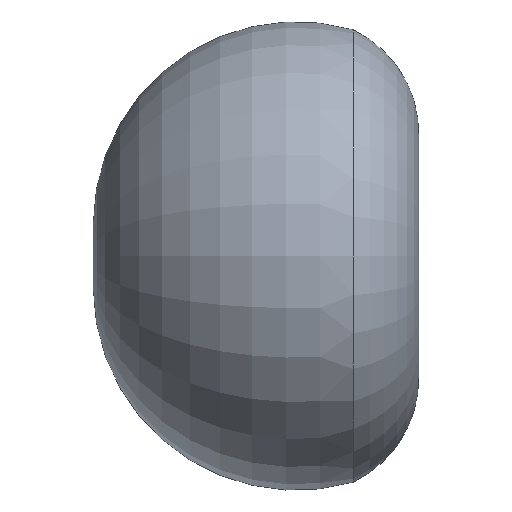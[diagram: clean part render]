
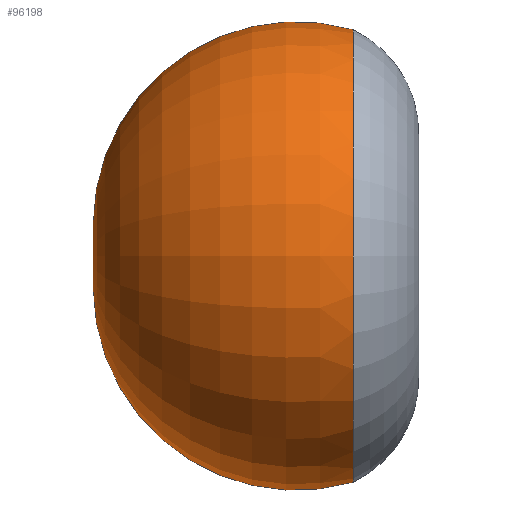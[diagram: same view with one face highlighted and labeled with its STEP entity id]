
A CAD part, left-side view. The second image highlights one B-rep face of the part: STEP entity #96198.
In plain terms, the highlighted toroidal (fillet/blend) face has major radius 400 mm and minor radius 2600.15 mm.
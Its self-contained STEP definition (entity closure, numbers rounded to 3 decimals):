
#10222 = CARTESIAN_POINT ( 'NONE',  ( 0., 104.136, 2896.778 ) ) ;
#10227 = CARTESIAN_POINT ( 'NONE',  ( 0., 104.136, -2896.778 ) ) ;
#10283 = DIRECTION ( 'NONE',  ( 0., 0., -1. ) ) ;
#10284 = DIRECTION ( 'NONE',  ( 0., -1., 0. ) ) ;
#10285 = CARTESIAN_POINT ( 'NONE',  ( 0., 830., 0. ) ) ;
#10286 = AXIS2_PLACEMENT_3D ( 'NONE', #10285, #10284, #10283 ) ;
#10287 = TOROIDAL_SURFACE ( 'NONE', #10286, 400., 2600.15 ) ;
#10288 = FACE_OUTER_BOUND ( 'NONE', #96200, .T. ) ;
#10345 = CARTESIAN_POINT ( 'NONE',  ( 0., 3399.199, 0. ) ) ;
#10361 = DIRECTION ( 'NONE',  ( 0., 0., 1. ) ) ;
#10362 = DIRECTION ( 'NONE',  ( -1., 0., 0. ) ) ;
#10363 = CARTESIAN_POINT ( 'NONE',  ( 0., 830., -400. ) ) ;
#10364 = AXIS2_PLACEMENT_3D ( 'NONE', #10363, #10362, #10361 ) ;
#10365 = CIRCLE ( 'NONE', #10364, 2600.15 ) ;
#10418 = DIRECTION ( 'NONE',  ( 0., 0., -1. ) ) ;
#10419 = DIRECTION ( 'NONE',  ( 1., 0., 0. ) ) ;
#10420 = CARTESIAN_POINT ( 'NONE',  ( 0., 830., 400. ) ) ;
#10421 = AXIS2_PLACEMENT_3D ( 'NONE', #10420, #10419, #10418 ) ;
#10422 = CIRCLE ( 'NONE', #10421, 2600.15 ) ;
#10457 = DIRECTION ( 'NONE',  ( 0., 0., -1. ) ) ;
#10458 = DIRECTION ( 'NONE',  ( 0., -1., 0. ) ) ;
#10459 = AXIS2_PLACEMENT_3D ( 'NONE', #10465, #10458, #10457 ) ;
#10460 = CIRCLE ( 'NONE', #10459, 2896.778 ) ;
#10465 = CARTESIAN_POINT ( 'NONE',  ( 0., 104.136, 0. ) ) ;
#96131 = VERTEX_POINT ( 'NONE', #10227 ) ;
#96141 = VERTEX_POINT ( 'NONE', #10222 ) ;
#96182 = ORIENTED_EDGE ( 'NONE', *, *, #96228, .T. ) ;
#96186 = ORIENTED_EDGE ( 'NONE', *, *, #96310, .F. ) ;
#96198 = ADVANCED_FACE ( 'NONE', ( #10288 ), #10287, .T. ) ;
#96200 = EDGE_LOOP ( 'NONE', ( #96203, #96182, #96186 ) ) ;
#96203 = ORIENTED_EDGE ( 'NONE', *, *, #96300, .F. ) ;
#96228 = EDGE_CURVE ( 'NONE', #96243, #96131, #10365, .T. ) ;
#96243 = VERTEX_POINT ( 'NONE', #10345 ) ;
#96300 = EDGE_CURVE ( 'NONE', #96243, #96141, #10422, .T. ) ;
#96310 = EDGE_CURVE ( 'NONE', #96141, #96131, #10460, .T. ) ;
